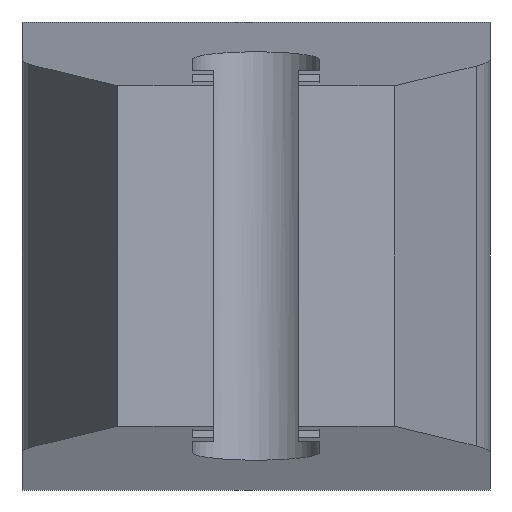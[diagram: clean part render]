
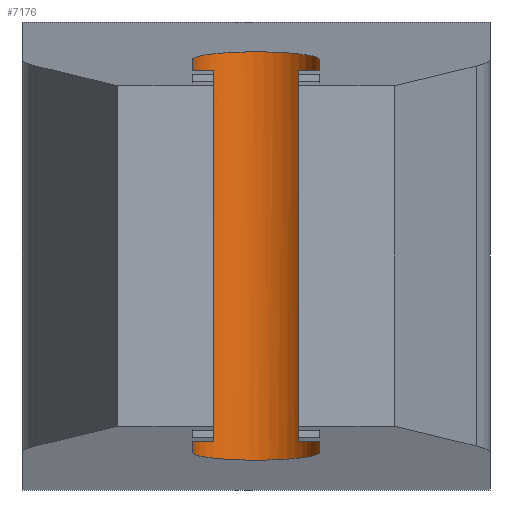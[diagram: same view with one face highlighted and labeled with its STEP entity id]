
A CAD part, front view. The second image highlights one B-rep face of the part: STEP entity #7176.
In plain terms, the highlighted cylindrical face has radius 3 mm (diameter 6 mm), a partial arc.
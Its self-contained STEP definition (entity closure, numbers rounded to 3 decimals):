
#22 = CARTESIAN_POINT ( 'NONE',  ( 3., -21., 9.228 ) ) ;
#135 = CARTESIAN_POINT ( 'NONE',  ( 3., -15., 9.965 ) ) ;
#169 = EDGE_CURVE ( 'NONE', #3710, #2333, #7298, .T. ) ;
#248 = CARTESIAN_POINT ( 'NONE',  ( -3., -21., 9.228 ) ) ;
#260 = VECTOR ( 'NONE', #2785, 1000. ) ;
#421 = DIRECTION ( 'NONE',  ( 0., 0., 1. ) ) ;
#970 = CARTESIAN_POINT ( 'NONE',  ( 0., -21., 11. ) ) ;
#1015 = VERTEX_POINT ( 'NONE', #22 ) ;
#1411 = CARTESIAN_POINT ( 'NONE',  ( 3., -21., -9.228 ) ) ;
#1437 = CARTESIAN_POINT ( 'NONE',  ( -3., -21., -9.228 ) ) ;
#1583 = DIRECTION ( 'NONE',  ( 0., 0., -1. ) ) ;
#1604 = CARTESIAN_POINT ( 'NONE',  ( -3., -15., -9.965 ) ) ;
#1610 = CARTESIAN_POINT ( 'NONE',  ( 3., -15., -9.965 ) ) ;
#1960 = FACE_OUTER_BOUND ( 'NONE', #4378, .T. ) ;
#1973 = CARTESIAN_POINT ( 'NONE',  ( -3., -21., -9.228 ) ) ;
#2004 = CARTESIAN_POINT ( 'NONE',  ( 3., -21., -9.228 ) ) ;
#2010 =( BOUNDED_CURVE ( )  B_SPLINE_CURVE ( 3, ( #5143, #135, #2566, #248 ),
 .UNSPECIFIED., .F., .F. ) 
 B_SPLINE_CURVE_WITH_KNOTS ( ( 4, 4 ),
 ( 1.571, 4.712 ),
 .UNSPECIFIED. ) 
 CURVE ( )  GEOMETRIC_REPRESENTATION_ITEM ( )  RATIONAL_B_SPLINE_CURVE ( ( 1., 0.333, 0.333, 1. ) ) 
 REPRESENTATION_ITEM ( '' )  );
#2333 = VERTEX_POINT ( 'NONE', #2004 ) ;
#2362 = ORIENTED_EDGE ( 'NONE', *, *, #169, .T. ) ;
#2373 = EDGE_CURVE ( 'NONE', #1015, #2433, #2010, .T. ) ;
#2433 = VERTEX_POINT ( 'NONE', #5790 ) ;
#2566 = CARTESIAN_POINT ( 'NONE',  ( -3., -15., 9.965 ) ) ;
#2647 = ORIENTED_EDGE ( 'NONE', *, *, #2373, .T. ) ;
#2785 = DIRECTION ( 'NONE',  ( 0., 0., -1. ) ) ;
#2983 = AXIS2_PLACEMENT_3D ( 'NONE', #970, #421, #7179 ) ;
#3281 = LINE ( 'NONE', #5579, #260 ) ;
#3710 = VERTEX_POINT ( 'NONE', #1973 ) ;
#3766 = LINE ( 'NONE', #4988, #6726 ) ;
#4278 = CYLINDRICAL_SURFACE ( 'NONE', #2983, 3. ) ;
#4378 = EDGE_LOOP ( 'NONE', ( #6379, #2647, #5872, #2362 ) ) ;
#4988 = CARTESIAN_POINT ( 'NONE',  ( -3., -21., 11. ) ) ;
#5143 = CARTESIAN_POINT ( 'NONE',  ( 3., -21., 9.228 ) ) ;
#5572 = EDGE_CURVE ( 'NONE', #1015, #2333, #3281, .T. ) ;
#5579 = CARTESIAN_POINT ( 'NONE',  ( 3., -21., 11. ) ) ;
#5790 = CARTESIAN_POINT ( 'NONE',  ( -3., -21., 9.228 ) ) ;
#5872 = ORIENTED_EDGE ( 'NONE', *, *, #7194, .T. ) ;
#6379 = ORIENTED_EDGE ( 'NONE', *, *, #5572, .F. ) ;
#6726 = VECTOR ( 'NONE', #1583, 1000. ) ;
#7176 = ADVANCED_FACE ( 'NONE', ( #1960 ), #4278, .F. ) ;
#7179 = DIRECTION ( 'NONE',  ( 0., -1., 0. ) ) ;
#7194 = EDGE_CURVE ( 'NONE', #2433, #3710, #3766, .T. ) ;
#7298 =( BOUNDED_CURVE ( )  B_SPLINE_CURVE ( 3, ( #1437, #1604, #1610, #1411 ),
 .UNSPECIFIED., .F., .F. ) 
 B_SPLINE_CURVE_WITH_KNOTS ( ( 4, 4 ),
 ( 4.712, 7.854 ),
 .UNSPECIFIED. ) 
 CURVE ( )  GEOMETRIC_REPRESENTATION_ITEM ( )  RATIONAL_B_SPLINE_CURVE ( ( 1., 0.333, 0.333, 1. ) ) 
 REPRESENTATION_ITEM ( '' )  );
